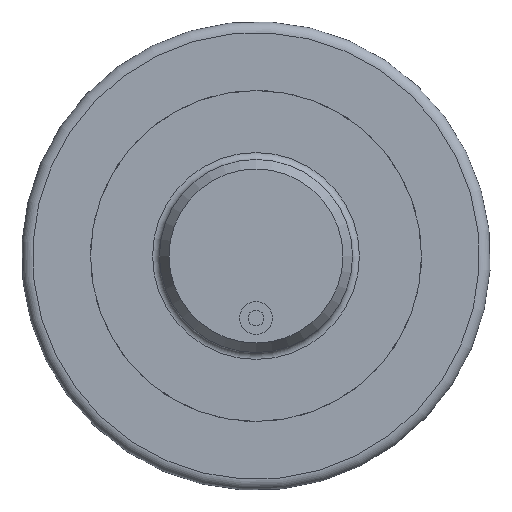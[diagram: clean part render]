
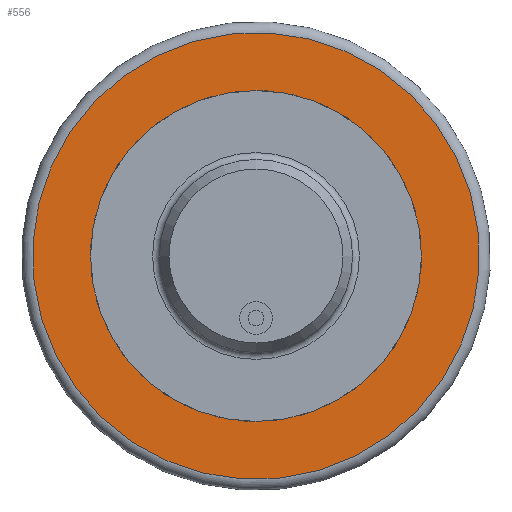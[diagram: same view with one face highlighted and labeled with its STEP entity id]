
A CAD part, left-side view. The second image highlights one B-rep face of the part: STEP entity #556.
In plain terms, the highlighted planar face has unit normal (-1, 0, 0).
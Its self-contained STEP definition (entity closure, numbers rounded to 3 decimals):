
#522=CARTESIAN_POINT('',(5.414,22.,0.0));
#523=VERTEX_POINT('',#522);
#524=CARTESIAN_POINT('',(5.414,-140.0,0.0));
#525=DIRECTION('',(1.0,0.0,0.0));
#526=DIRECTION('',(0.0,-1.0,0.0));
#527=AXIS2_PLACEMENT_3D('',#524,#525,#526);
#528=CIRCLE('',#527,162.);
#529=EDGE_CURVE('',#523,#523,#528,.T.);
#537=CARTESIAN_POINT('',(5.414,5.,0.0));
#538=DIRECTION('',(-1.0,0.0,0.0));
#539=DIRECTION('',(0.0,0.0,1.0));
#540=AXIS2_PLACEMENT_3D('',#537,#538,#539);
#541=PLANE('',#540);
#542=ORIENTED_EDGE('',*,*,#529,.F.);
#543=EDGE_LOOP('',(#542));
#544=FACE_OUTER_BOUND('',#543,.T.);
#545=CARTESIAN_POINT('',(5.414,-20.0,0.0));
#546=VERTEX_POINT('',#545);
#547=CARTESIAN_POINT('',(5.414,-140.0,0.0));
#548=DIRECTION('',(1.0,0.0,0.0));
#549=DIRECTION('',(0.0,1.0,0.0));
#550=AXIS2_PLACEMENT_3D('',#547,#548,#549);
#551=CIRCLE('',#550,120.0);
#552=EDGE_CURVE('',#546,#546,#551,.T.);
#553=ORIENTED_EDGE('',*,*,#552,.T.);
#554=EDGE_LOOP('',(#553));
#555=FACE_BOUND('',#554,.T.);
#556=ADVANCED_FACE('',(#544,#555),#541,.T.);
